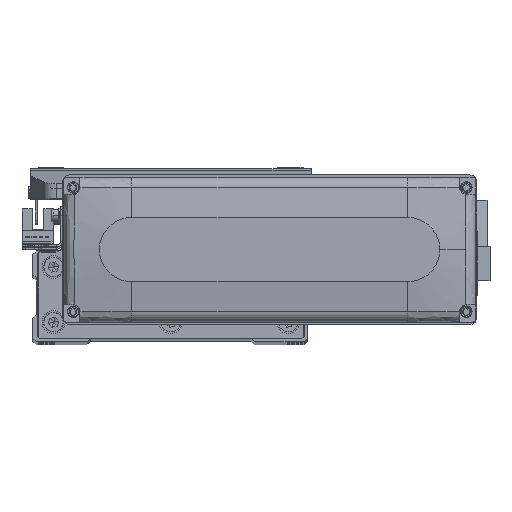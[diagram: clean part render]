
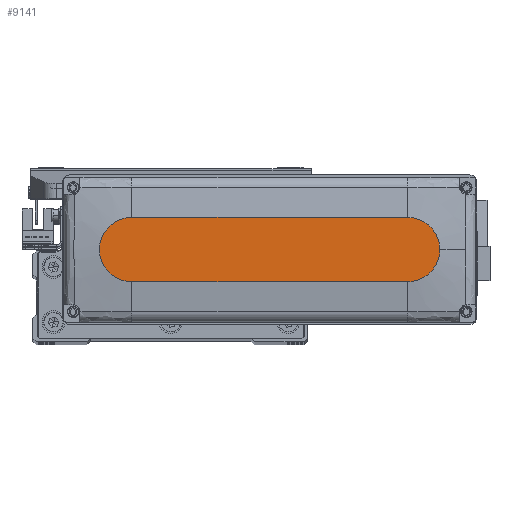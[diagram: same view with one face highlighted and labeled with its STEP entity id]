
A CAD part, top view. The second image highlights one B-rep face of the part: STEP entity #9141.
In plain terms, the highlighted planar face has unit normal (0, 0, 1).
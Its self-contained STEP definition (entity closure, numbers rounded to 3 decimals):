
#4779 = PLANE ( 'NONE',  #8531 ) ;
#5405 = CARTESIAN_POINT ( 'NONE',  ( 60., 0., 28.5 ) ) ;
#6414 = CIRCLE ( 'NONE', #16537, 14. ) ;
#8201 = CARTESIAN_POINT ( 'NONE',  ( 0., 0., 28.5 ) ) ;
#8447 = DIRECTION ( 'NONE',  ( 1., 0., 0. ) ) ;
#8531 = AXIS2_PLACEMENT_3D ( 'NONE', #8201, #36674, #8447 ) ;
#9141 = ADVANCED_FACE ( 'NONE', ( #44857 ), #4779, .T. ) ;
#11867 = ORIENTED_EDGE ( 'NONE', *, *, #43989, .T. ) ;
#14151 = ORIENTED_EDGE ( 'NONE', *, *, #30842, .T. ) ;
#16537 = AXIS2_PLACEMENT_3D ( 'NONE', #19430, #35489, #51595 ) ;
#18266 = VERTEX_POINT ( 'NONE', #19518 ) ;
#18793 = CARTESIAN_POINT ( 'NONE',  ( -60., -14., 28.5 ) ) ;
#19292 = DIRECTION ( 'NONE',  ( 1., 0., 0. ) ) ;
#19430 = CARTESIAN_POINT ( 'NONE',  ( 60., 0., 28.5 ) ) ;
#19518 = CARTESIAN_POINT ( 'NONE',  ( 60., -14., 28.5 ) ) ;
#22426 = LINE ( 'NONE', #22930, #42118 ) ;
#22694 = EDGE_CURVE ( 'NONE', #49562, #32451, #34460, .T. ) ;
#22930 = CARTESIAN_POINT ( 'NONE',  ( -60., 14., 28.5 ) ) ;
#23671 = AXIS2_PLACEMENT_3D ( 'NONE', #5405, #33080, #42031 ) ;
#23832 = EDGE_CURVE ( 'NONE', #37233, #48203, #28701, .T. ) ;
#24158 = CARTESIAN_POINT ( 'NONE',  ( 60., 14., 28.5 ) ) ;
#24930 = CARTESIAN_POINT ( 'NONE',  ( -60., 0., 28.5 ) ) ;
#26066 = VECTOR ( 'NONE', #19292, 1000. ) ;
#26684 = LINE ( 'NONE', #18793, #26066 ) ;
#28701 = CIRCLE ( 'NONE', #23671, 14. ) ;
#28995 = CARTESIAN_POINT ( 'NONE',  ( -60., -14., 28.5 ) ) ;
#30158 = ORIENTED_EDGE ( 'NONE', *, *, #23832, .T. ) ;
#30842 = EDGE_CURVE ( 'NONE', #32451, #18266, #26684, .T. ) ;
#31366 = EDGE_CURVE ( 'NONE', #48203, #49562, #22426, .T. ) ;
#32451 = VERTEX_POINT ( 'NONE', #28995 ) ;
#32568 = DIRECTION ( 'NONE',  ( 0., 0., 1. ) ) ;
#33080 = DIRECTION ( 'NONE',  ( 0., 0., 1. ) ) ;
#34460 = CIRCLE ( 'NONE', #41221, 14. ) ;
#35489 = DIRECTION ( 'NONE',  ( 0., 0., 1. ) ) ;
#36338 = ORIENTED_EDGE ( 'NONE', *, *, #31366, .T. ) ;
#36674 = DIRECTION ( 'NONE',  ( 0., 0., 1. ) ) ;
#37233 = VERTEX_POINT ( 'NONE', #45931 ) ;
#38107 = CARTESIAN_POINT ( 'NONE',  ( -60., 14., 28.5 ) ) ;
#41221 = AXIS2_PLACEMENT_3D ( 'NONE', #24930, #32568, #48656 ) ;
#42031 = DIRECTION ( 'NONE',  ( 1., 0., 0. ) ) ;
#42118 = VECTOR ( 'NONE', #51665, 1000. ) ;
#43989 = EDGE_CURVE ( 'NONE', #18266, #37233, #6414, .T. ) ;
#44220 = ORIENTED_EDGE ( 'NONE', *, *, #22694, .T. ) ;
#44857 = FACE_OUTER_BOUND ( 'NONE', #46101, .T. ) ;
#45931 = CARTESIAN_POINT ( 'NONE',  ( 74., 0., 28.5 ) ) ;
#46101 = EDGE_LOOP ( 'NONE', ( #36338, #44220, #14151, #11867, #30158 ) ) ;
#48203 = VERTEX_POINT ( 'NONE', #24158 ) ;
#48656 = DIRECTION ( 'NONE',  ( 1., 0., 0. ) ) ;
#49562 = VERTEX_POINT ( 'NONE', #38107 ) ;
#51595 = DIRECTION ( 'NONE',  ( 1., 0., 0. ) ) ;
#51665 = DIRECTION ( 'NONE',  ( -1., 0., 0. ) ) ;
